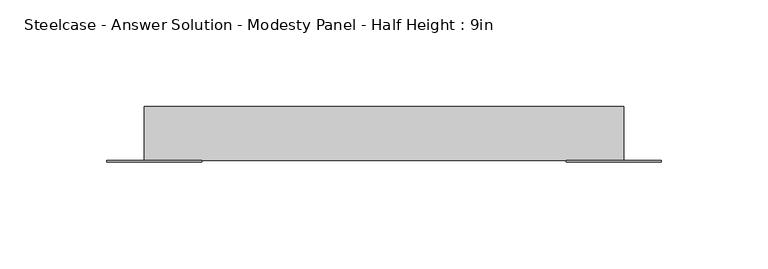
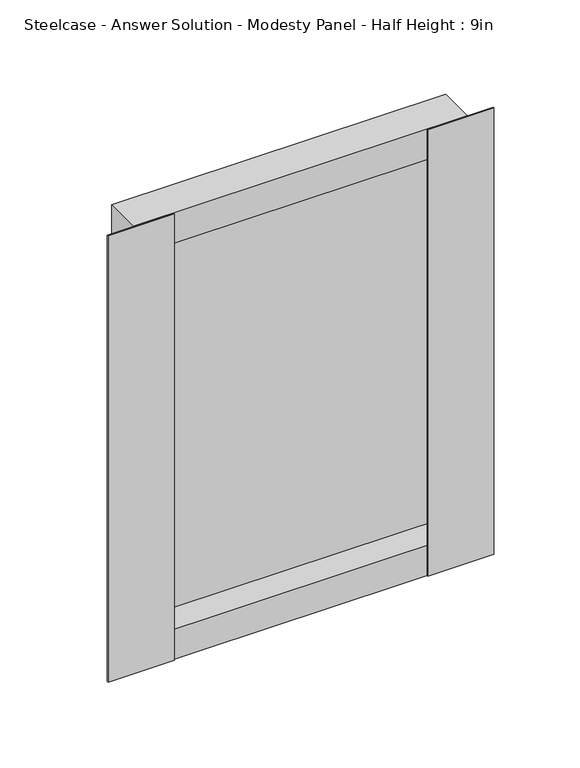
"""IFC4 building model written with IfcOpenShell, lengths in millimetres: furniture geometry, Steelcase - Answer Solution - Modesty Panel - Half Height : 9in."""

from ifc_helpers import new_model, si_unit, frame, origin, place, context, project, spatial, polyline, outline, extrude, faceted_brep, source, transform, mapped, element, save


def steelcase_answer_solution_modesty_panel_half_height_9in_260cc02f(model_context):
    return source(origin(), model_context, "Body", "SolidModel", [
        extrude(outline(polyline([(772.1400478, -14.2668826), (772.1400478, -15.0593624), (727.7248254, -15.0593624), (727.7248254, -14.2668826), (772.1400478, -14.2668826)])), frame((0.0, 0.0, 17.653), z_axis=(0.0, 0.0, 1.0), x_axis=(1.0, 0.0, 0.0)), (0.0, 0.0, 1.0), 317.5),
        extrude(outline(polyline([(556.9673392, -14.2668826), (556.9673392, -15.0593624), (512.5520826, -15.0593624), (512.5520826, -14.2668826), (556.9673392, -14.2668826)])), frame((0.0, 0.0, 17.653), z_axis=(0.0, 0.0, 1.0), x_axis=(1.0, 0.0, 0.0)), (0.0, 0.0, 1.0), 317.5),
        faceted_brep([(530.0780827, 10.9045177, 17.653), (530.0780827, -14.2668826, 17.653), (530.0780827, -14.2668826, 335.153), (530.0780827, 10.9045177, 335.153), (754.6140827, -14.2668826, 17.653), (754.6140827, 10.9045177, 17.653), (754.6140827, 10.9045177, 335.153), (754.6140827, -14.2668826, 335.153), (753.8216165, 4.7831174, 39.243), (530.8705628, 4.7831174, 39.243), (530.8705628, -14.2668826, 39.243), (753.8216165, -14.2668826, 39.243), (530.8705628, -14.2668826, 313.563), (753.8216165, -14.2668826, 313.563), (530.8705628, 4.7831174, 313.563), (753.8216165, 4.7831174, 313.563)], [[[0, 1, 2, 3]], [[4, 5, 6, 7]], [[8, 9, 10, 11]], [[0, 3, 6, 5]], [[4, 1, 0, 5]], [[2, 1, 4, 7], [10, 12, 13, 11]], [[3, 2, 7, 6]], [[14, 15, 13, 12]], [[9, 8, 15, 14]], [[12, 10, 9, 14]], [[11, 13, 15, 8]]]),
    ])


if __name__ == "__main__":
    model = new_model("IFC4")
    model_context = context("Model", 3, world=origin())
    ifc_project = project(units=[si_unit("LENGTHUNIT", "METRE", prefix="MILLI")], contexts=[model_context])
    site = spatial("IfcSite", under=ifc_project)
    building = spatial("IfcBuilding", under=site)
    placement = place(None, origin())
    steelcase_answer_solution_modesty_panel_half_height_9in_shape = steelcase_answer_solution_modesty_panel_half_height_9in_260cc02f(model_context)
    element("IfcFurniture", 1, ObjectType="Steelcase - Answer Solution - Modesty Panel - Half Height : 9in", at=placement, inside=building, context=model_context, shape_type="MappedRepresentation", body=[
        mapped(steelcase_answer_solution_modesty_panel_half_height_9in_shape, transform((0.0, 0.0, 0.0), x_axis=(1.0, 0.0, 0.0), y_axis=(0.0, 1.0, 0.0), z_axis=(0.0, 0.0, 1.0))),
    ])
    save(model, "model.ifc")
